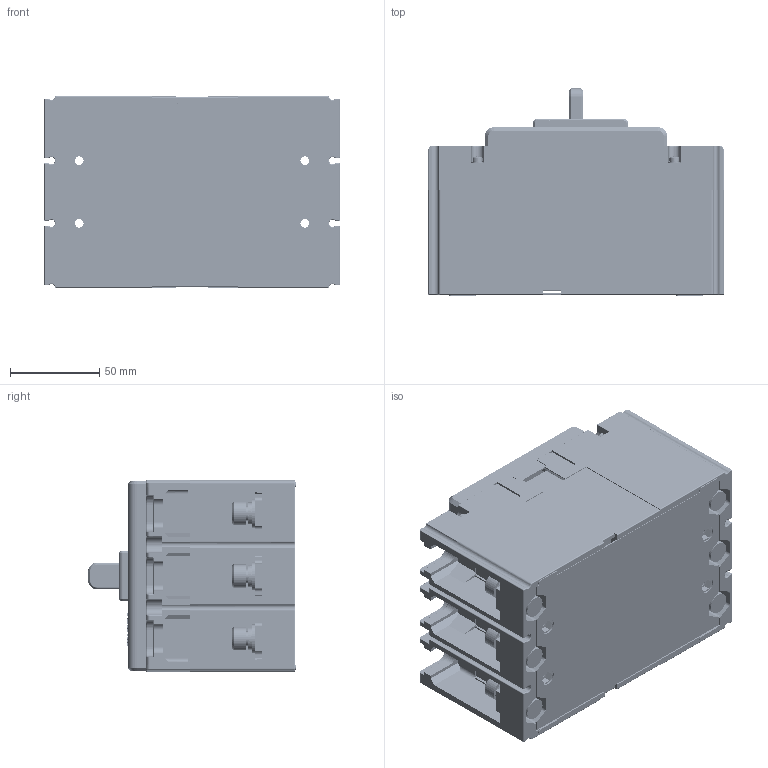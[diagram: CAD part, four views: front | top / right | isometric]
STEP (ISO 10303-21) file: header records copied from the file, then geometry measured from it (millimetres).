
FILE_DESCRIPTION((''),'2;1');
FILE_NAME('CDM6H-250M_H_3300_1_ASM_ASM','2025-04-28T',('Administrator'),(''),'PRO/ENGINEER BY PARAMETRIC TECHNOLOGY CORPORATION, 2015440','PRO/ENGINEER BY PARAMETRIC TECHNOLOGY CORPORATION, 2015440','');
FILE_SCHEMA(('CONFIG_CONTROL_DESIGN'));
Products named in the file (32): JZ-5024044500_2_1; GB_T809-M3X12_8_1; 5024044500_ASM_2_ASM_1_ASM; 8940007200_8_1; 8551033100_4_1; 8585064400_5_1; 8253076600_8_1; 5253029200_ASM_9_ASM_1_ASM; 8750029700_5_1; 8751002100_5_1; GB_T70_1-M8X20_8_1; 7090200704_GB_T97_1_8_8_1; 7090370701K_GB_T93_8_8_1; 5850004100_ASM_9_ASM_1_ASM; GB_T809-M3X8_8_1; 5315050000_ASM_4_ASM_1_ASM; 8282018100_AF0_8_1; 8253077300_8_1; 5315051200_ASM_4_ASM_1_ASM; 8315095900_8_1; 7010100305R01_GB_T823_M3X10_8_1; 7090300201_GB_T93_3_8_1; GB_T97_4_3_8_1; 5850007700_ASM_8_ASM_1_ASM; 5315051400_ASM_5_ASM_1_ASM; 8742102700_5_1; 7030100225_GB_T9074_4-M3X30_8_1; CDM6H-250M_H_3300_1_ASM_1_ASM; ZG-5315076300; GB_T809-M3X8; 5315076300_ASM; CDM6H-250M_H_3300_1_ASM_ASM
Assembly tree (68 placements, depth 6):
  CDM6H-250M_H_3300_1_ASM_ASM
    CDM6H-250M_H_3300_1_ASM_1_ASM
      5024044500_ASM_2_ASM_1_ASM
        JZ-5024044500_2_1
        GB_T809-M3X12_8_1  x8
      8940007200_8_1  x6
      8551033100_4_1  x3
      8585064400_5_1  x3
      5253029200_ASM_9_ASM_1_ASM
        8253076600_8_1
      8750029700_5_1  x3
      8751002100_5_1  x3
      5850004100_ASM_9_ASM_1_ASM  x6
        GB_T70_1-M8X20_8_1
        7090200704_GB_T97_1_8_8_1
        7090370701K_GB_T93_8_8_1
      5315051400_ASM_5_ASM_1_ASM
        5315051200_ASM_4_ASM_1_ASM
          5315050000_ASM_4_ASM_1_ASM
            GB_T809-M3X8_8_1  x4
          8282018100_AF0_8_1
          8253077300_8_1
        8315095900_8_1
        5850007700_ASM_8_ASM_1_ASM  x4
          7010100305R01_GB_T823_M3X10_8_1
          7090300201_GB_T93_3_8_1
          GB_T97_4_3_8_1
      8742102700_5_1
      7030100225_GB_T9074_4-M3X30_8_1  x4
    5315076300_ASM
      ZG-5315076300
      GB_T809-M3X8  x4
Bounding box: 165 x 116 x 107 mm (x, y, z)
Volume: 1076620.5 mm3; surface area: 309472.2 mm2
Topology: 75 solids, 125 shells, 5988 faces, 15304 edges, 9615 vertices
Faces by surface type: plane 2753, cylinder 2035, torus 464, cone 280, sphere 193, extrusion 150, bspline 113
Entity records: 166251 total; most frequent: CARTESIAN_POINT 43986, DIRECTION 25557, ORIENTED_EDGE 25430, EDGE_CURVE 12735, AXIS2_PLACEMENT_3D 8731, VECTOR 8095, VERTEX_POINT 8017, LINE 7945
